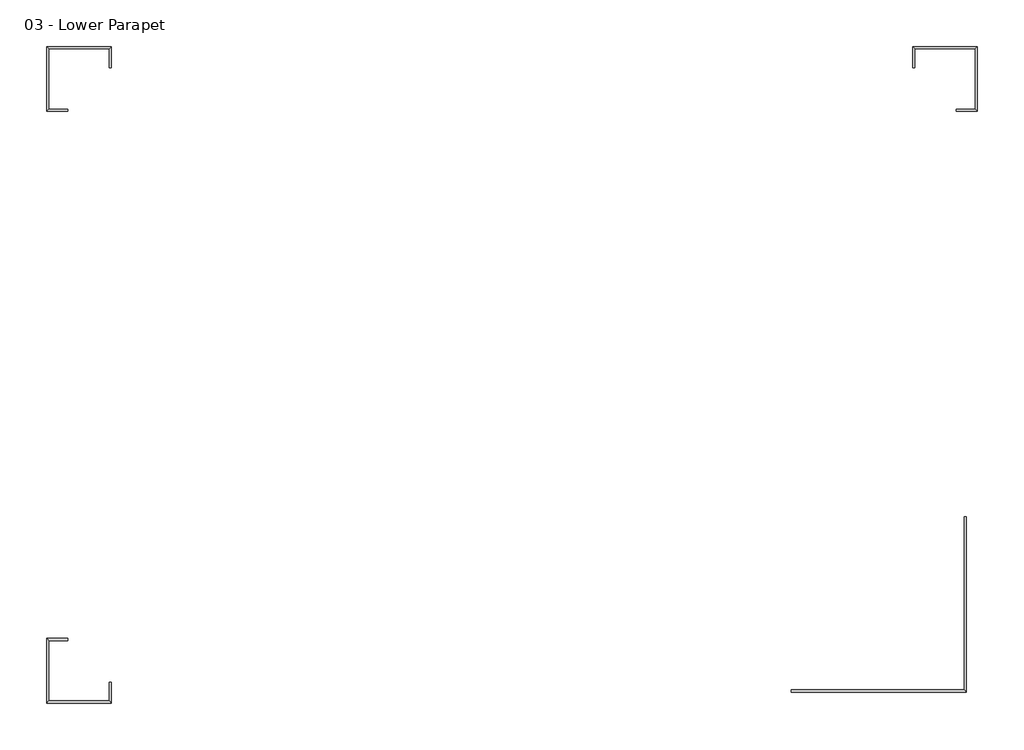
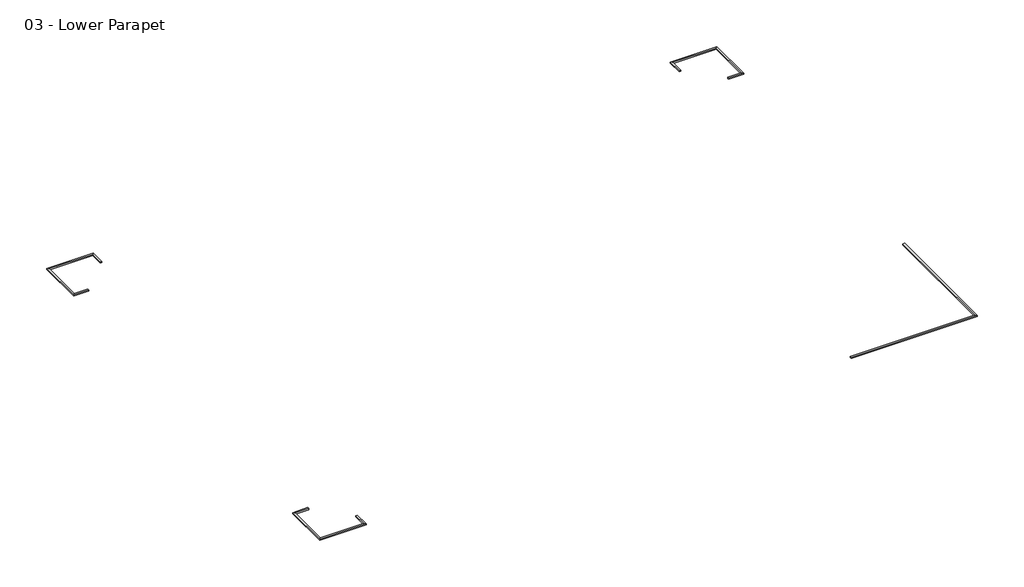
# One storey: 14 proxies.
"""IFC4 building model written with IfcOpenShell, lengths in millimetres."""

from ifc_helpers import new_model, si_unit, frame, origin, place, context, project, spatial, polyline, outline, extrude, element, save

model = new_model("IFC4")

# Units and contexts
model_context = context("Model", 3, world=origin())
ifc_project = project(units=[si_unit("LENGTHUNIT", "METRE", prefix="MILLI")], contexts=[model_context])

# Site, building, storey
site = spatial("IfcSite", under=ifc_project)
building = spatial("IfcBuilding", under=site)
storey = spatial("IfcBuildingStorey", under=building, Name="03 - Lower Parapet", Elevation=7500.0)

# Proxies
placement = place(None, origin())
element("IfcBuildingElementProxy", 1, Name="Reveals", at=placement, inside=storey, context=model_context, shape_type="SweptSolid", body=[
    extrude(outline(polyline([(-20106.4727721, -13977.9313057), (-20003.9727721, -13977.9313057), (-20003.9727721, -14934.2313057), (-20106.4727721, -14831.7313057), (-20106.4727721, -13977.9313057)])), frame((0.0, 0.0, 7700.0), z_axis=(0.0, 0.0, 1.0), x_axis=(1.0, 0.0, 0.0)), (0.0, 0.0, 1.0), 75.0),
])
element("IfcBuildingElementProxy", 2, Name="Reveals", at=placement, inside=storey, context=model_context, shape_type="SweptSolid", body=[
    extrude(outline(polyline([(-20106.4727721, -14831.7313057), (-20003.9727721, -14934.2313057), (-22946.9727721, -14934.2313057), (-22844.4727721, -14831.7313057), (-20106.4727721, -14831.7313057)])), frame((0.0, 0.0, 7700.0), z_axis=(0.0, 0.0, 1.0), x_axis=(1.0, 0.0, 0.0)), (0.0, 0.0, 1.0), 75.0),
])
element("IfcBuildingElementProxy", 3, Name="Reveals", at=placement, inside=storey, context=model_context, shape_type="SweptSolid", body=[
    extrude(outline(polyline([(-22844.4727721, -14831.7313057), (-22946.9727721, -14934.2313057), (-22946.9727721, -11991.2313057), (-22844.4727721, -12093.7313057), (-22844.4727721, -14831.7313057)])), frame((0.0, 0.0, 7700.0), z_axis=(0.0, 0.0, 1.0), x_axis=(1.0, 0.0, 0.0)), (0.0, 0.0, 1.0), 75.0),
])
element("IfcBuildingElementProxy", 4, Name="Reveals", at=placement, inside=storey, context=model_context, shape_type="SweptSolid", body=[
    extrude(outline(polyline([(-22844.4727721, -12093.7313057), (-22946.9727721, -11991.2313057), (-21990.4727721, -11991.2313057), (-21990.4727721, -12093.7313057), (-22844.4727721, -12093.7313057)])), frame((0.0, 0.0, 7700.0), z_axis=(0.0, 0.0, 1.0), x_axis=(1.0, 0.0, 0.0)), (0.0, 0.0, 1.0), 75.0),
])
element("IfcBuildingElementProxy", 5, Name="Reveals", at=placement, inside=storey, context=model_context, shape_type="SweptSolid", body=[
    extrude(outline(polyline([(-21990.4727721, 12030.0686943), (-21990.4727721, 11927.5686943), (-22946.9727721, 11927.5686943), (-22844.4727721, 12030.0686943), (-21990.4727721, 12030.0686943)])), frame((0.0, 0.0, 7700.0), z_axis=(0.0, 0.0, 1.0), x_axis=(1.0, 0.0, 0.0)), (0.0, 0.0, 1.0), 75.0),
])
element("IfcBuildingElementProxy", 6, Name="Reveals", at=placement, inside=storey, context=model_context, shape_type="SweptSolid", body=[
    extrude(outline(polyline([(-22844.4727721, 12030.0686943), (-22946.9727721, 11927.5686943), (-22946.9727721, 14870.5686943), (-22844.4727721, 14768.0686943), (-22844.4727721, 12030.0686943)])), frame((0.0, 0.0, 7700.0), z_axis=(0.0, 0.0, 1.0), x_axis=(1.0, 0.0, 0.0)), (0.0, 0.0, 1.0), 75.0),
])
element("IfcBuildingElementProxy", 7, Name="Reveals", at=placement, inside=storey, context=model_context, shape_type="SweptSolid", body=[
    extrude(outline(polyline([(-22844.4727721, 14768.0686943), (-22946.9727721, 14870.5686943), (-20003.9727721, 14870.5686943), (-20106.4727721, 14768.0686943), (-22844.4727721, 14768.0686943)])), frame((0.0, 0.0, 7700.0), z_axis=(0.0, 0.0, 1.0), x_axis=(1.0, 0.0, 0.0)), (0.0, 0.0, 1.0), 75.0),
])
element("IfcBuildingElementProxy", 8, Name="Reveals", at=placement, inside=storey, context=model_context, shape_type="SweptSolid", body=[
    extrude(outline(polyline([(-20106.4727721, 14768.0686943), (-20003.9727721, 14870.5686943), (-20003.9727721, 13914.0686943), (-20106.4727721, 13914.0686943), (-20106.4727721, 14768.0686943)])), frame((0.0, 0.0, 7700.0), z_axis=(0.0, 0.0, 1.0), x_axis=(1.0, 0.0, 0.0)), (0.0, 0.0, 1.0), 75.0),
])
element("IfcBuildingElementProxy", 9, Name="Reveals", at=placement, inside=storey, context=model_context, shape_type="SweptSolid", body=[
    extrude(outline(polyline([(16467.5272279, 13914.0686943), (16365.0272279, 13914.0686943), (16365.0272279, 14870.5686943), (16467.5272279, 14768.0686943), (16467.5272279, 13914.0686943)])), frame((0.0, 0.0, 7700.0), z_axis=(0.0, 0.0, 1.0), x_axis=(1.0, 0.0, 0.0)), (0.0, 0.0, 1.0), 75.0),
])
element("IfcBuildingElementProxy", 10, Name="Reveals", at=placement, inside=storey, context=model_context, shape_type="SweptSolid", body=[
    extrude(outline(polyline([(16467.5272279, 14768.0686943), (16365.0272279, 14870.5686943), (19308.0272279, 14870.5686943), (19205.5272279, 14768.0686943), (16467.5272279, 14768.0686943)])), frame((0.0, 0.0, 7700.0), z_axis=(0.0, 0.0, 1.0), x_axis=(1.0, 0.0, 0.0)), (0.0, 0.0, 1.0), 75.0),
])
element("IfcBuildingElementProxy", 11, Name="Reveals", at=placement, inside=storey, context=model_context, shape_type="SweptSolid", body=[
    extrude(outline(polyline([(19205.5272279, 14768.0686943), (19308.0272279, 14870.5686943), (19308.0272279, 11927.5686943), (19205.5272279, 12030.0686943), (19205.5272279, 14768.0686943)])), frame((0.0, 0.0, 7700.0), z_axis=(0.0, 0.0, 1.0), x_axis=(1.0, 0.0, 0.0)), (0.0, 0.0, 1.0), 75.0),
])
element("IfcBuildingElementProxy", 12, Name="Reveals", at=placement, inside=storey, context=model_context, shape_type="SweptSolid", body=[
    extrude(outline(polyline([(19205.5272279, 12030.0686943), (19308.0272279, 11927.5686943), (18351.5272279, 11927.5686943), (18351.5272279, 12030.0686943), (19205.5272279, 12030.0686943)])), frame((0.0, 0.0, 7700.0), z_axis=(0.0, 0.0, 1.0), x_axis=(1.0, 0.0, 0.0)), (0.0, 0.0, 1.0), 75.0),
])
element("IfcBuildingElementProxy", 13, Name="Reveals", at=placement, inside=storey, context=model_context, shape_type="SweptSolid", body=[
    extrude(outline(polyline([(18705.5272279, -6481.9313057), (18808.0272279, -6481.9313057), (18808.0272279, -14434.4313057), (18705.5272279, -14331.9313057), (18705.5272279, -6481.9313057)])), frame((0.0, 0.0, 7700.0), z_axis=(0.0, 0.0, 1.0), x_axis=(1.0, 0.0, 0.0)), (0.0, 0.0, 1.0), 75.0),
])
element("IfcBuildingElementProxy", 14, Name="Reveals", at=placement, inside=storey, context=model_context, shape_type="SweptSolid", body=[
    extrude(outline(polyline([(18705.5272279, -14331.9313057), (18808.0272279, -14434.4313057), (10855.5272279, -14434.4313057), (10855.5272279, -14331.9313057), (18705.5272279, -14331.9313057)])), frame((0.0, 0.0, 7700.0), z_axis=(0.0, 0.0, 1.0), x_axis=(1.0, 0.0, 0.0)), (0.0, 0.0, 1.0), 75.0),
])

save(model, "model.ifc")
